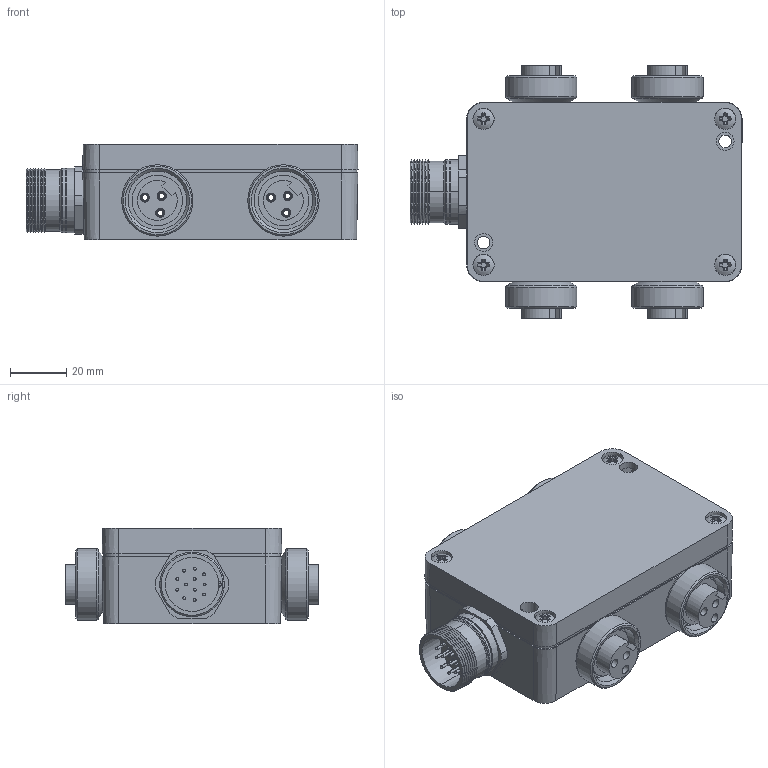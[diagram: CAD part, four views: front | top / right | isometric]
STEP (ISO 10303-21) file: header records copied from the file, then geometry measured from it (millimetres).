
FILE_DESCRIPTION((''),'2;1');
FILE_NAME('C:\TurckZip\4RKF30-CS12.stp','2007-10-23T08:58:39',('IKOROL'),(''),'Autodesk Inventor 2008','Autodesk Inventor 2008','');
FILE_SCHEMA(('AUTOMOTIVE_DESIGN { 1 2 10303 214 0 1 1 1 }'));
Length unit declared in the file: millimetre
Products named in the file (1): Part4
Bounding box: 118.2 x 90 x 34 mm (x, y, z)
Volume: 94024.3 mm3; surface area: 68741.1 mm2
Topology: 1 solids, 7 shells, 870 faces, 2175 edges, 1409 vertices
Faces by surface type: plane 367, cylinder 310, cone 167, sphere 16, bspline 6, torus 4
Full cylindrical faces by diameter (mm): 1.9 x12, 2.1 x11, 2.75 x12, 3.2 x26, 3.3 x2, 4 x4, 4.5 x4, 5 x2, 6.4 x2, 7 x4, 8 x2, 8.6 x2, 14 x12, 14.2 x8, 16 x4, 18 x4, 20 x4, 20.85 x4, 22.5 x4, 25.4 x4
Entity records: 26257 total; most frequent: CARTESIAN_POINT 5174, DIRECTION 4504, ORIENTED_EDGE 3802, EDGE_CURVE 1901, AXIS2_PLACEMENT_3D 1852, VERTEX_POINT 1354, EDGE_LOOP 1231, CIRCLE 951
